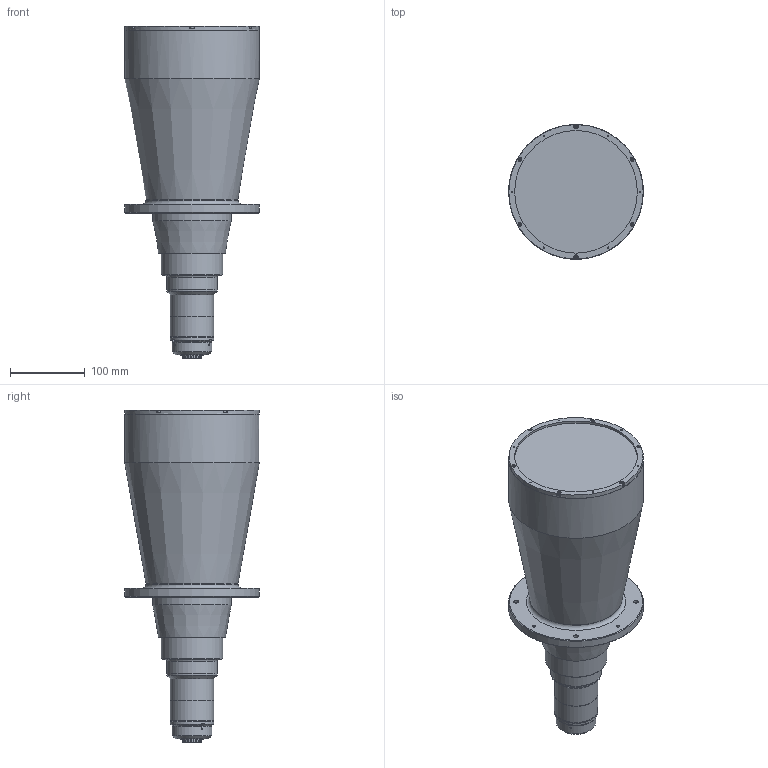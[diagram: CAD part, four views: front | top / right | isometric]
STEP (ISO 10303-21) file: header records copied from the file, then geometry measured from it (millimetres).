
FILE_DESCRIPTION (( 'STEP AP203' ), '1' );
FILE_NAME ('3d_mtl-15018c-012.STEP', '2017-06-22T08:41:01', ( '' ), ( '' ), 'SwSTEP 2.0', 'SolidWorks 2014', '' );
FILE_SCHEMA (( 'CONFIG_CONTROL_DESIGN' ));
Length unit declared in the file: millimetre
Products named in the file (1): 3d_mtl-15018c-012
Bounding box: 180 x 180 x 443.74 mm (x, y, z)
Volume: 5907804.6 mm3; surface area: 235548 mm2
Topology: 1 solids, 1 shells, 339 faces, 793 edges, 495 vertices
Faces by surface type: plane 227, cylinder 63, cone 34, torus 15
Full cylindrical faces by diameter (mm): 1.5 x6, 2.5 x3, 3.8 x3, 4.2 x4, 4.4 x6, 5.5 x4, 6 x4, 6.5 x4, 22.5 x1, 24.7 x1, 25.4 x1, 53 x1, 57 x1, 58 x3, 68 x2, 82 x1, 105 x1, 122.87 x1, 164 x1, 179.5 x1, 180 x2
Entity records: 9015 total; most frequent: CARTESIAN_POINT 1683, DIRECTION 1564, ORIENTED_EDGE 1304, EDGE_CURVE 652, AXIS2_PLACEMENT_3D 587, EDGE_LOOP 488, VERTEX_POINT 448, FACE_OUTER_BOUND 405
